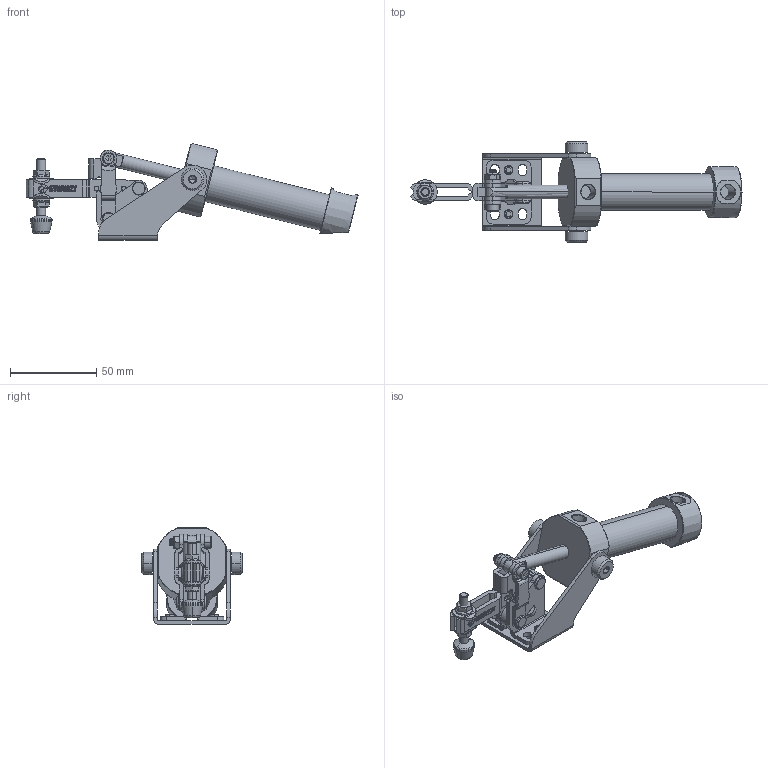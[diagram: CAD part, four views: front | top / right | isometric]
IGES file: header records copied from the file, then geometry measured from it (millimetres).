
Start section: 3D InterOp IGES (v. 2020 1.0.1), Spatial Corp. Copyright (c) 1999-2017.
Global section: file name: 611-1-q20.igs; native system: Spatial Corp.; preprocessor: 3D InterOp ACIS/IGES; author: TraceParts; organization: TraceParts S.A.; date: 20231130.141628; units: millimetre
Bounding box: 191.94 x 58 x 55.99 mm (x, y, z)
Surface area: 45488.3 mm2 (no closed solid volume)
Topology: 0 solids, 0 shells, 1489 faces, 9497 edges, 9463 vertices
Faces by surface type: revolution 1029, extrusion 420, bspline 40
